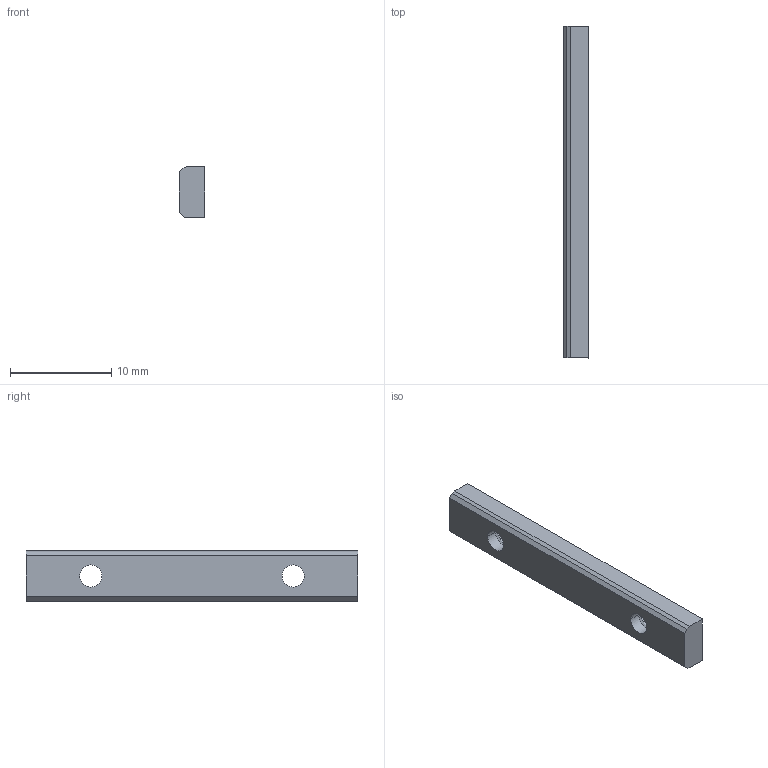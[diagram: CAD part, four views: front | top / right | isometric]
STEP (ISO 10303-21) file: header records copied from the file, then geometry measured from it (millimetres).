
FILE_DESCRIPTION(/* description */ ('(C) Elphel, Inc. 2012. Licensed under CERN OHL v.1.1 or later, see http://ohwr.org/cernohl'),/* implementation_level */ '2;1');
FILE_NAME(/* name */ '0353-19-771',/* time_stamp */ '2012-06-04T16:34:57-06:00',/* author */ (''),/* organization */ ('Elphel, Inc'),/* preprocessor_version */ 'ST-DEVELOPER v12',/* originating_system */ 'VariCAD 2012-1.04; kernel version (20100102)',/* authorisation */ '');
FILE_SCHEMA (('AUTOMOTIVE_DESIGN'));
Length unit declared in the file: millimetre
Products named in the file (1): Part
Bounding box: 2.5 x 32.8 x 5 mm (x, y, z)
Volume: 366.4 mm3; surface area: 516 mm2
Topology: 1 solids, 1 shells, 21 faces, 49 edges, 30 vertices
Faces by surface type: plane 9, cylinder 8, cone 4
Entity records: 630 total; most frequent: DIRECTION 111, CARTESIAN_POINT 102, ORIENTED_EDGE 98, EDGE_CURVE 49, AXIS2_PLACEMENT_3D 39, LINE 33, VECTOR 33, VERTEX_POINT 30
